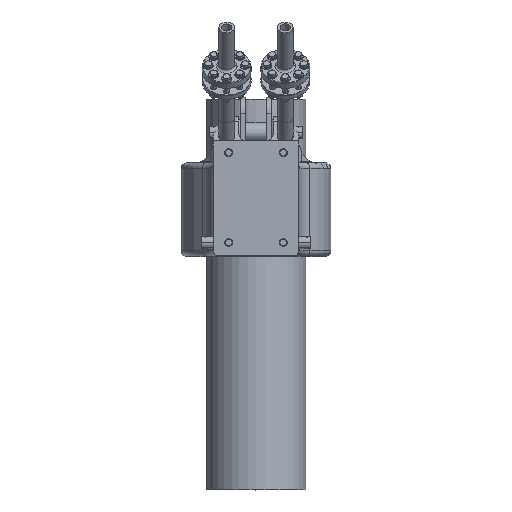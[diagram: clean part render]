
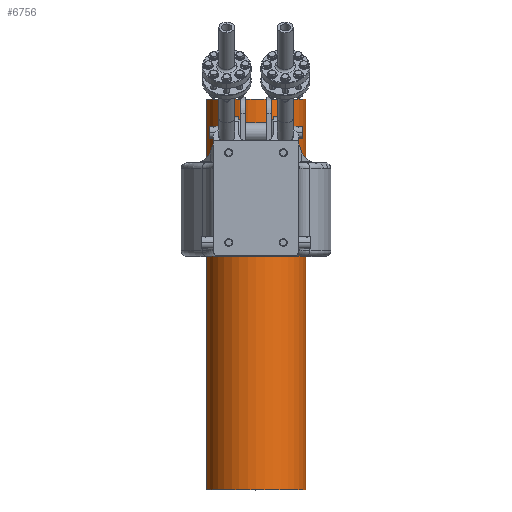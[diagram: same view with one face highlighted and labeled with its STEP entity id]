
A CAD part, top view. The second image highlights one B-rep face of the part: STEP entity #6756.
In plain terms, the highlighted cylindrical face has radius 127 mm (diameter 254 mm), a partial arc.
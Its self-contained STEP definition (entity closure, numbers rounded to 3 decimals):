
#6686=CARTESIAN_POINT('',(0.,0.,0.));
#6687=DIRECTION('',(0.,1.,0.));
#6688=DIRECTION('',(-1.,0.,0.));
#6689=AXIS2_PLACEMENT_3D('',#6686,#6687,#6688);
#6691=DIRECTION('',(0.,1.,0.));
#6692=VECTOR('',#6691,1000.);
#6693=CARTESIAN_POINT('',(127.,0.,0.));
#6694=LINE('',#6693,#6692);
#6695=DIRECTION('',(0.,1.,0.));
#6696=VECTOR('',#6695,1000.);
#6697=CARTESIAN_POINT('',(-127.,0.,0.));
#6698=LINE('',#6697,#6696);
#6704=CARTESIAN_POINT('',(0.,1000.,0.));
#6705=DIRECTION('',(0.,1.,0.));
#6706=DIRECTION('',(-1.,0.,0.));
#6707=AXIS2_PLACEMENT_3D('',#6704,#6705,#6706);
#6709=CARTESIAN_POINT('',(127.,0.,0.));
#6710=CARTESIAN_POINT('',(-127.,0.,0.));
#6711=VERTEX_POINT('',#6709);
#6712=VERTEX_POINT('',#6710);
#6713=CARTESIAN_POINT('',(127.,1000.,0.));
#6714=CARTESIAN_POINT('',(-127.,1000.,0.));
#6715=VERTEX_POINT('',#6713);
#6716=VERTEX_POINT('',#6714);
#6744=CARTESIAN_POINT('',(0.,0.,0.));
#6745=DIRECTION('',(0.,1.,0.));
#6746=DIRECTION('',(1.,0.,0.));
#6747=AXIS2_PLACEMENT_3D('',#6744,#6745,#6746);
#6748=CYLINDRICAL_SURFACE('',#6747,127.);
#6749=ORIENTED_EDGE('',*,*,#6724,.F.);
#6750=ORIENTED_EDGE('',*,*,#6739,.T.);
#6752=ORIENTED_EDGE('',*,*,#6751,.T.);
#6753=ORIENTED_EDGE('',*,*,#6735,.F.);
#6754=EDGE_LOOP('',(#6749,#6750,#6752,#6753));
#6755=FACE_OUTER_BOUND('',#6754,.F.);
#6756=ADVANCED_FACE('',(#6755),#6748,.T.);
#6690=CIRCLE('',#6689,127.);
#6708=CIRCLE('',#6707,127.);
#6724=EDGE_CURVE('',#6712,#6711,#6690,.T.);
#6735=EDGE_CURVE('',#6711,#6715,#6694,.T.);
#6739=EDGE_CURVE('',#6712,#6716,#6698,.T.);
#6751=EDGE_CURVE('',#6716,#6715,#6708,.T.);
